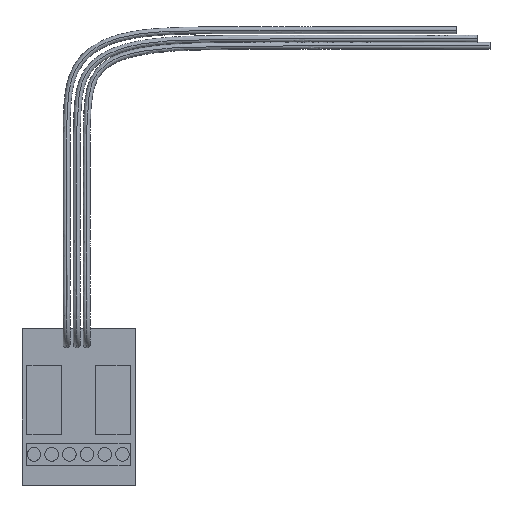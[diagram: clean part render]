
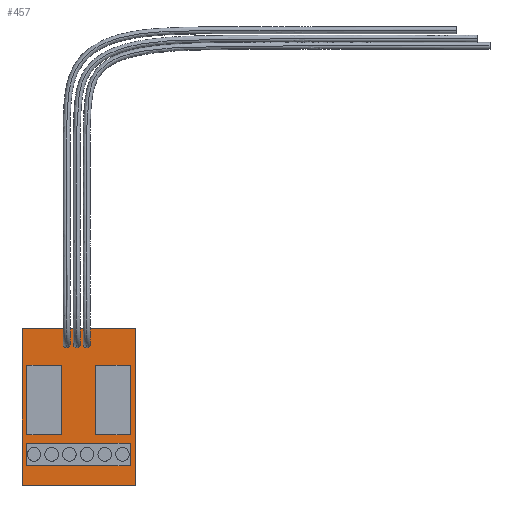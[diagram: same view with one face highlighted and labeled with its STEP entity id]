
A CAD part, top view. The second image highlights one B-rep face of the part: STEP entity #457.
In plain terms, the highlighted planar face has unit normal (0, 0, 1).
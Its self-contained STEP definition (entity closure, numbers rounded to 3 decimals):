
#109=B_SPLINE_CURVE_WITH_KNOTS('',1,(#3967,#3968),.UNSPECIFIED.,.F.,.F.,
(2,2),(0.,32.5),.UNSPECIFIED.);
#110=B_SPLINE_CURVE_WITH_KNOTS('',1,(#3969,#3970),.UNSPECIFIED.,.F.,.F.,
(2,2),(0.,45.),.UNSPECIFIED.);
#111=B_SPLINE_CURVE_WITH_KNOTS('',1,(#3971,#3972),.UNSPECIFIED.,.F.,.F.,
(2,2),(0.,32.5),.UNSPECIFIED.);
#112=B_SPLINE_CURVE_WITH_KNOTS('',1,(#3973,#3974),.UNSPECIFIED.,.F.,.F.,
(2,2),(0.,45.),.UNSPECIFIED.);
#457=ADVANCED_FACE('',(#541),#1506,.T.);
#541=FACE_OUTER_BOUND('',#625,.T.);
#625=EDGE_LOOP('',(#784,#785,#786,#787));
#784=ORIENTED_EDGE('',*,*,#1120,.F.);
#785=ORIENTED_EDGE('',*,*,#1119,.F.);
#786=ORIENTED_EDGE('',*,*,#1118,.F.);
#787=ORIENTED_EDGE('',*,*,#1117,.F.);
#1117=EDGE_CURVE('',#1381,#1382,#109,.T.);
#1118=EDGE_CURVE('',#1382,#1383,#110,.T.);
#1119=EDGE_CURVE('',#1383,#1384,#111,.T.);
#1120=EDGE_CURVE('',#1384,#1381,#112,.T.);
#1381=VERTEX_POINT('',#3963);
#1382=VERTEX_POINT('',#3964);
#1383=VERTEX_POINT('',#3965);
#1384=VERTEX_POINT('',#3966);
#1506=PLANE('',#1610);
#1610=AXIS2_PLACEMENT_3D('',#3962,#1681,$);
#1681=DIRECTION('',(0.,0.,1.));
#3962=CARTESIAN_POINT('',(32.5,0.,1.6));
#3963=CARTESIAN_POINT('',(32.5,0.,1.6));
#3964=CARTESIAN_POINT('',(0.,0.,1.6));
#3965=CARTESIAN_POINT('',(0.,45.,1.6));
#3966=CARTESIAN_POINT('',(32.5,45.,1.6));
#3967=CARTESIAN_POINT('',(32.5,0.,1.6));
#3968=CARTESIAN_POINT('',(0.,0.,1.6));
#3969=CARTESIAN_POINT('',(0.,0.,1.6));
#3970=CARTESIAN_POINT('',(0.,45.,1.6));
#3971=CARTESIAN_POINT('',(0.,45.,1.6));
#3972=CARTESIAN_POINT('',(32.5,45.,1.6));
#3973=CARTESIAN_POINT('',(32.5,45.,1.6));
#3974=CARTESIAN_POINT('',(32.5,0.,1.6));
